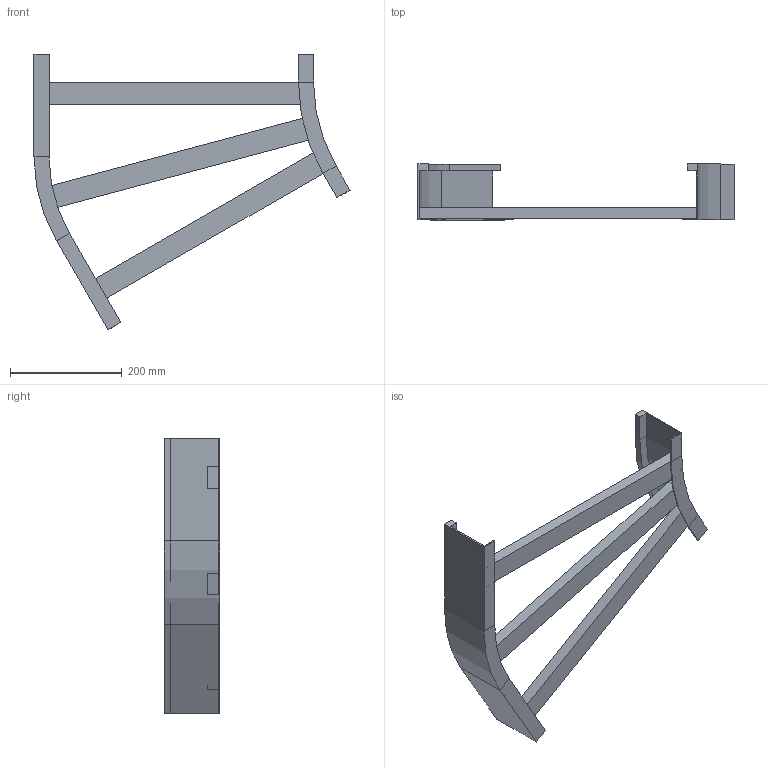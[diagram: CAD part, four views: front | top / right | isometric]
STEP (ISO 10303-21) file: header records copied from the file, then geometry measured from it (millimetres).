
FILE_DESCRIPTION (( 'STEP AP214' ), '1' );
FILE_NAME ('B2_12B3D500.step', '2025-02-21T15:07:51', ( '' ), ( '' ), 'SwSTEP 2.0', 'SolidWorks 2023', '' );
FILE_SCHEMA (( 'AUTOMOTIVE_DESIGN' ));
Length unit declared in the file: millimetre
Products named in the file (5): B2_12B3D500; TRAVERSINO_500; B2_LONGH.INTERNO 30°_H100_R300; TRAVERSINO_L513; B2_LONGH.ESTERNO 30°_H100_R300+500
Assembly tree (5 placements, depth 2):
  B2_12B3D500
    B2_LONGH.INTERNO 30°_H100_R300
    B2_LONGH.ESTERNO 30°_H100_R300+500
    TRAVERSINO_500  x2
    TRAVERSINO_L513
Bounding box: 565.19 x 100 x 493.3 mm (x, y, z)
Volume: 1564741.9 mm3; surface area: 412416 mm2
Topology: 5 solids, 5 shells, 70 faces, 148 edges, 88 vertices
Faces by surface type: plane 62, cylinder 8
Entity records: 1822 total; most frequent: DIRECTION 296, CARTESIAN_POINT 288, ORIENTED_EDGE 272, EDGE_CURVE 136, LINE 120, VECTOR 120, AXIS2_PLACEMENT_3D 88, VERTEX_POINT 80
